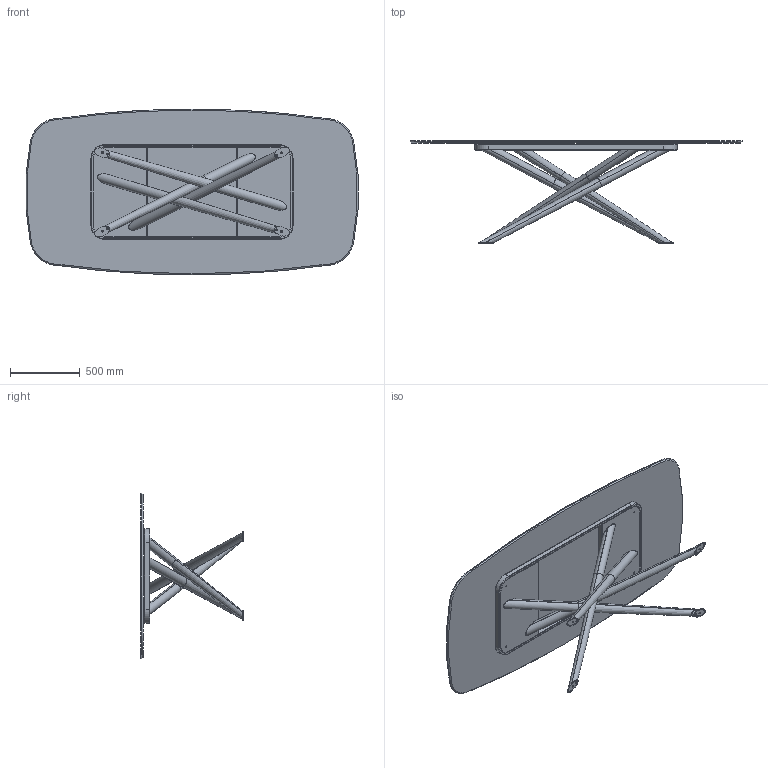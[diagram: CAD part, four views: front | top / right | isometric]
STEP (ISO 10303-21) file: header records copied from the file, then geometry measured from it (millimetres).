
FILE_DESCRIPTION (( 'STEP AP203' ), '1' );
FILE_NAME ('BA42C.STEP', '2024-08-08T06:23:09', ( '' ), ( '' ), 'SwSTEP 2.0', 'SolidWorks 2022', '' );
FILE_SCHEMA (( 'CONFIG_CONTROL_DESIGN' ));
Length unit declared in the file: millimetre
Products named in the file (8): BAB100000_02-00-piede per baly 240; BA42C; BAB100000_03-00-Telaio BALY L240_Default<A macchina>; M6xXXmm_HEX_M6x30mm HEX; TR Fastenings Ltd-M6_M6; K4XCMXX-00-Piani Sagomati in ceramica_2390 x 1190; BAB100000-00-BALY BASE GREZZA L240 rettangolare; BAB100000_01-00-Gambe saldate BALY 240_Default<A macchina>
Assembly tree (18 placements, depth 3):
  BA42C
    K4XCMXX-00-Piani Sagomati in ceramica_2390 x 1190
    BAB100000-00-BALY BASE GREZZA L240 rettangolare
      BAB100000_01-00-Gambe saldate BALY 240_Default<A macchina>
      BAB100000_03-00-Telaio BALY L240_Default<A macchina>
      BAB100000_02-00-piede per baly 240  x4
      TR Fastenings Ltd-M6_M6  x2
      M6xXXmm_HEX_M6x30mm HEX  x8
Bounding box: 2382.15 x 735 x 1190 mm (x, y, z)
Volume: 47556416.5 mm3; surface area: 14791579 mm2
Topology: 28 solids, 28 shells, 633 faces, 1309 edges, 726 vertices
Faces by surface type: plane 288, cylinder 182, cone 97, torus 48, bspline 18
Entity records: 10389 total; most frequent: CARTESIAN_POINT 1789, DIRECTION 1689, ORIENTED_EDGE 1454, EDGE_CURVE 727, AXIS2_PLACEMENT_3D 661, VERTEX_POINT 417, EDGE_LOOP 382, VECTOR 367
